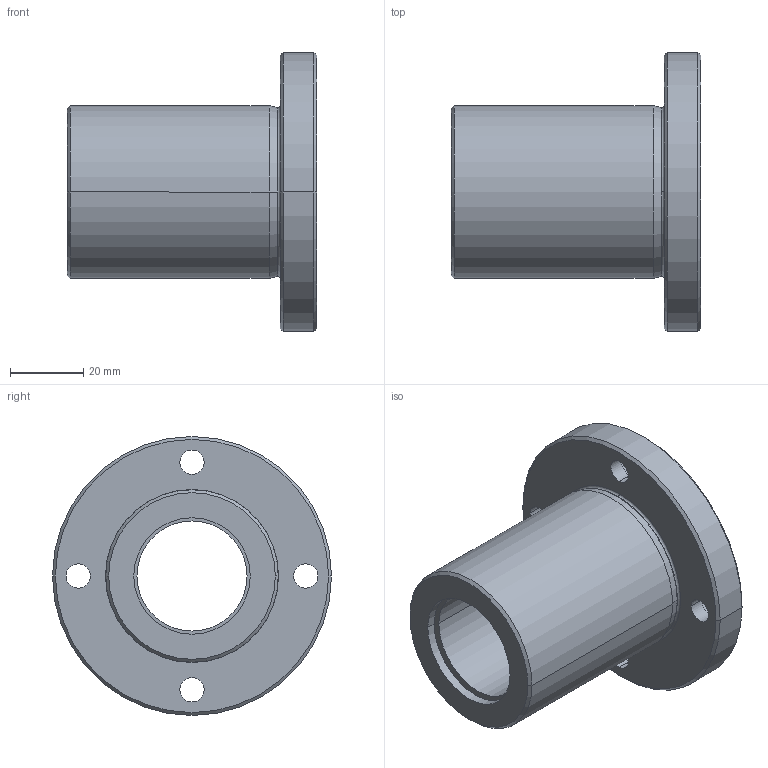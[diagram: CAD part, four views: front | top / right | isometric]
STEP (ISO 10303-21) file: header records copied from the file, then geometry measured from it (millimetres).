
FILE_DESCRIPTION (( 'STEP AP214' ), '1' );
FILE_NAME ('2.7063 Lineaarilaakeri LMEF30UU.STEP', '2024-06-17T11:27:00', ( '' ), ( '' ), 'SwSTEP 2.0', 'SolidWorks 2024', '' );
FILE_SCHEMA (( 'AUTOMOTIVE_DESIGN' ));
Length unit declared in the file: millimetre
Products named in the file (1): 2.7063 Lineaarilaakeri LMEF30UU
Bounding box: 68 x 76 x 76 mm (x, y, z)
Volume: 94073.5 mm3; surface area: 26495.6 mm2
Topology: 1 solids, 1 shells, 53 faces, 116 edges, 74 vertices
Faces by surface type: cylinder 30, plane 11, cone 8, torus 4
Entity records: 1531 total; most frequent: DIRECTION 302, CARTESIAN_POINT 244, ORIENTED_EDGE 232, AXIS2_PLACEMENT_3D 132, EDGE_CURVE 116, CIRCLE 78, VERTEX_POINT 74, EDGE_LOOP 72
